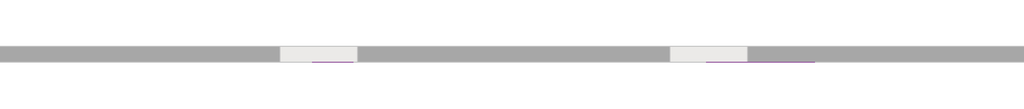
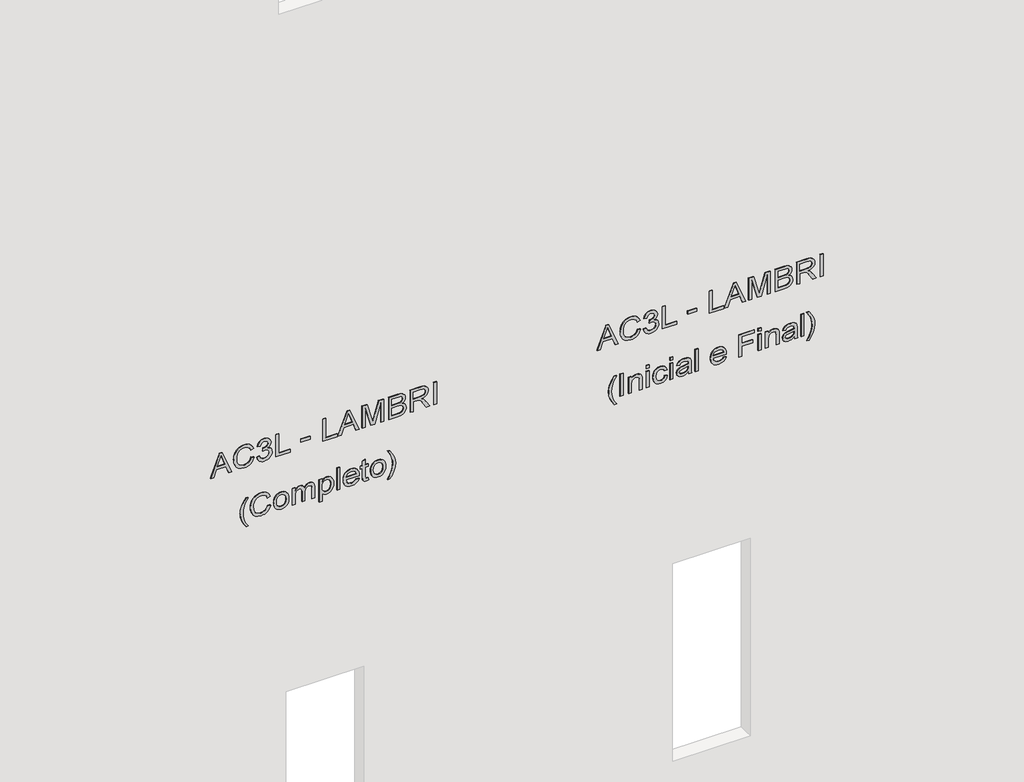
# One storey, part 6 of 11: 2 proxies.
"""IFC4 building model written with IfcOpenShell, lengths in millimetres."""

from ifc_helpers import new_model, si_unit, frame, origin, place, context, project, spatial, polyline, outline, extrude, element, save

model = new_model("IFC4")

# Units and contexts
model_context = context("Model", 3, world=origin())
ifc_project = project(units=[si_unit("LENGTHUNIT", "METRE", prefix="MILLI")], contexts=[model_context])

# Site, building, storey
site = spatial("IfcSite", under=ifc_project)
building = spatial("IfcBuilding", under=site)
storey = spatial("IfcBuildingStorey", under=building, Name="01 - Marelli - Planta Baixa - Painéis Lambri", Elevation=0.0)

# Proxies
placement = place(None, origin())
element("IfcBuildingElementProxy", 1, Name="300mm Arial", ObjectType="300mm Arial", at=placement, inside=storey, context=model_context, shape_type="SweptSolid", body=[
    extrude(outline(polyline([(5965.9244535, 27389.5842548), (5965.9244535, 27429.3890867), (6060.1022443, 27463.8228414), (6060.1022443, 27587.9462266), (5965.9244535, 27622.4535577), (5965.9244535, 27662.2583896), (6267.293384, 27541.9609772), (6267.293384, 27509.8816672), (5965.9244535, 27389.5842548)]), holes=[polyline([(6097.7733606, 27477.6552044), (6178.3395176, 27507.1593405), (6229.6222677, 27525.9213222), (6171.8647944, 27547.0377487), (6097.7733606, 27574.18744), (6097.7733606, 27477.6552044)])]), frame((0.0, 8778.3159498, 0.0), z_axis=(0.0, 1.0, 0.0), x_axis=(0.0, 0.0, 1.0)), (0.0, 0.0, 1.0), 10.0),
    extrude(outline(polyline([(6073.0516905, 27914.4047091), (6040.7884396, 27902.218618), (6017.5750857, 27882.4357637), (6003.5587816, 27856.2333686), (5998.8866803, 27824.7886551), (6002.3171799, 27797.8137078), (6012.6086787, 27772.8069292), (6029.8347531, 27751.94802), (6054.0689796, 27737.4166812), (6084.1617268, 27728.891016), (6118.9633635, 27726.0491276), (6147.3822477, 27728.4495576), (6174.9550032, 27735.6508477), (6199.3455795, 27748.7750378), (6218.2179258, 27768.9441682), (6230.3028494, 27795.5236424), (6234.3311572, 27827.8788639), (6230.6983225, 27855.9482601), (6219.7998184, 27878.793732), (6200.9550632, 27896.6360087), (6173.4834752, 27909.6958196), (6182.4597959, 27947.3669359), (6220.278065, 27930.7294727), (6235.6003501, 27918.9273584), (6248.5314022, 27904.802989), (6258.7999084, 27888.623079), (6266.1345557, 27870.6543428), (6272.0022735, 27829.3503918), (6267.4681279, 27791.4953345), (6253.8656912, 27756.9512152), (6231.526057, 27727.8241582), (6200.7803193, 27706.220288), (6162.8332915, 27692.8385805), (6118.8897871, 27688.3780113), (6077.2271512, 27692.3235457), (6038.3236302, 27704.1601489), (6005.2326447, 27723.54753), (5981.0076153, 27750.1453983), (5966.1635768, 27784.8458675), (5961.215564, 27828.5410514), (5962.8503396, 27850.963459), (5967.7546665, 27871.5832449), (5975.9285445, 27890.4004089), (5987.3719739, 27907.4149512), (6001.9286046, 27922.2911794), (6019.4420868, 27934.6934012), (6039.9124206, 27944.6216165), (6063.3396059, 27952.0758254), (6073.0516905, 27914.4047091)])), frame((0.0, 8778.3159498, 0.0), z_axis=(0.0, 1.0, 0.0), x_axis=(0.0, 0.0, 1.0)), (0.0, 0.0, 1.0), 10.0),
    extrude(outline(polyline([(6045.9755757, 27989.7469417), (6028.0827151, 27992.9980989), (6011.928097, 27999.0727503), (5997.5117213, 28007.9708961), (5984.8335881, 28019.6925361), (5974.5007025, 28033.672052), (5967.12007, 28049.3438249), (5962.6916905, 28066.7078551), (5961.215564, 28085.7641425), (5962.9446094, 28106.8483793), (5968.1317455, 28126.0288268), (5976.7769724, 28143.305485), (5988.88029, 28158.6783539), (6003.4668111, 28171.2967063), (6019.5616484, 28180.3098152), (6037.1648019, 28185.7176806), (6056.2762716, 28187.5203023), (6083.2420218, 28183.9150588), (6105.2781533, 28173.0993281), (6121.5017493, 28155.6249334), (6131.029893, 28132.0436975), (6141.9008059, 28149.9963388), (6155.9722922, 28162.9457851), (6172.4901938, 28170.7816716), (6190.7003526, 28173.3936337), (6210.2440836, 28170.6437158), (6228.7025627, 28162.3939621), (6244.7238236, 28148.9478751), (6256.9558999, 28130.6089577), (6264.709013, 28108.8579347), (6267.293384, 28085.1755313), (6262.0510656, 28052.2868809), (6246.3241103, 28025.2843425), (6221.0690113, 28005.5474734), (6187.2422618, 27994.4558313), (6182.5333723, 28032.1269476), (6203.134764, 28038.8040058), (6217.8500438, 28050.5946237), (6226.6792117, 28066.7446433), (6229.6222677, 28086.4999065), (6226.7068029, 28106.2183814), (6217.9604084, 28121.9637308), (6204.7626419, 28132.2828208), (6188.4930606, 28135.7225174), (6168.9585267, 28130.9768397), (6155.2365283, 28116.7398065), (6147.1247303, 28096.561479), (6144.4207976, 28073.9919186), (6144.862256, 28067.9586539), (6107.1911397, 28063.7647992), (6111.311418, 28090.1787264), (6107.4578541, 28113.8703269), (6095.8971624, 28133.0001907), (6078.4503588, 28145.6369372), (6056.9384591, 28149.849186), (6034.2769282, 28145.600149), (6015.5885229, 28132.8530379), (6003.0621409, 28112.9138337), (5998.8866803, 28087.0885177), (6001.9217068, 28065.0799773), (6011.0267861, 28048.2033908), (6027.0112588, 28035.8517528), (6050.6844652, 28027.418058), (6045.9755757, 27989.7469417)])), frame((0.0, 8778.3159498, 0.0), z_axis=(0.0, 1.0, 0.0), x_axis=(0.0, 0.0, 1.0)), (0.0, 0.0, 1.0), 10.0),
    extrude(outline(polyline([(5965.9244535, 28234.6091977), (5965.9244535, 28422.9647792), (6003.5955698, 28422.9647792), (6003.5955698, 28272.280314), (6267.293384, 28272.280314), (6267.293384, 28234.6091977), (5965.9244535, 28234.6091977)])), frame((0.0, 8778.3159498, 0.0), z_axis=(0.0, 1.0, 0.0), x_axis=(0.0, 0.0, 1.0)), (0.0, 0.0, 1.0), 10.0),
    extrude(outline(polyline([(28677.2448143, 8778.3159498), (28559.5225759, 8778.3159498), (28559.5225759, 8788.3159498), (28677.2448143, 8788.3159498), (28677.2448143, 8778.3159498)])), frame((0.0, 0.0, 6055.3933548), z_axis=(0.0, 0.0, 1.0), x_axis=(1.0, 0.0, 0.0)), (0.0, 0.0, 1.0), 37.6711163),
    extrude(outline(polyline([(5965.9244535, 28842.0559482), (5965.9244535, 29030.4115297), (6003.5955698, 29030.4115297), (6003.5955698, 28879.7270645), (6267.293384, 28879.7270645), (6267.293384, 28842.0559482), (5965.9244535, 28842.0559482)])), frame((0.0, 8778.3159498, 0.0), z_axis=(0.0, 1.0, 0.0), x_axis=(0.0, 0.0, 1.0)), (0.0, 0.0, 1.0), 10.0),
    extrude(outline(polyline([(5965.9244535, 29037.6955932), (5965.9244535, 29077.5004251), (6060.1022443, 29111.9341798), (6060.1022443, 29236.057565), (5965.9244535, 29270.5648961), (5965.9244535, 29310.369728), (6267.293384, 29190.0723156), (6267.293384, 29157.9930056), (5965.9244535, 29037.6955932)]), holes=[polyline([(6097.7733606, 29125.7665428), (6178.3395176, 29155.2706788), (6229.6222677, 29174.0326606), (6171.8647944, 29195.1490871), (6097.7733606, 29222.2987784), (6097.7733606, 29125.7665428)])]), frame((0.0, 8778.3159498, 0.0), z_axis=(0.0, 1.0, 0.0), x_axis=(0.0, 0.0, 1.0)), (0.0, 0.0, 1.0), 10.0),
    extrude(outline(polyline([(5965.9244535, 29350.6160183), (5965.9244535, 29388.2871346), (6229.6222677, 29388.2871346), (5965.9244535, 29463.9972492), (5965.9244535, 29515.0592701), (6229.6222677, 29590.7693847), (5965.9244535, 29590.7693847), (5965.9244535, 29628.440501), (6267.293384, 29628.440501), (6267.293384, 29563.6196935), (6058.5571399, 29502.9927407), (6010.5117514, 29489.5282597), (6054.87832, 29477.0938482), (6267.293384, 29415.4368258), (6267.293384, 29350.6160183), (5965.9244535, 29350.6160183)])), frame((0.0, 8778.3159498, 0.0), z_axis=(0.0, 1.0, 0.0), x_axis=(0.0, 0.0, 1.0)), (0.0, 0.0, 1.0), 10.0),
    extrude(outline(polyline([(5965.9244535, 29694.3649546), (5965.9244535, 29808.4819495), (5971.1115897, 29856.7848555), (5977.5311305, 29874.8202703), (5986.4154807, 29889.5631412), (5998.6843452, 29901.6020795), (6015.2574291, 29911.5256963), (6034.7459778, 29918.1751634), (6055.7612368, 29920.3916524), (6080.9795475, 29917.1450938), (6102.6294029, 29907.405418), (6119.5887629, 29891.6324774), (6130.7355874, 29870.2861247), (6142.4802201, 29888.1559926), (6157.407032, 29900.8571185), (6174.4675596, 29908.4446846), (6192.613339, 29910.9738733), (6212.3318139, 29907.966438), (6231.1673721, 29898.9441321), (6247.1794359, 29884.6151284), (6258.4274279, 29865.6875997), (6265.076895, 29840.9935208), (6267.293384, 29809.3648663), (6267.293384, 29694.3649546), (5965.9244535, 29694.3649546)]), holes=[polyline([(6144.862256, 29732.0360709), (6229.6222677, 29732.0360709), (6229.6222677, 29795.6060797), (6225.6859303, 29844.0193502), (6220.084927, 29856.508944), (6211.1545915, 29865.7243879), (6199.7134615, 29871.4081648), (6186.5800742, 29873.302757), (6173.0512139, 29871.270209), (6162.0423452, 29865.1725649), (6153.6822268, 29855.0650071), (6148.0996175, 29841.0027179), (6144.862256, 29800.830004), (6144.862256, 29732.0360709)]), polyline([(6003.5955698, 29732.0360709), (6107.1911397, 29732.0360709), (6107.1911397, 29805.6124699), (6105.9311438, 29832.4402644), (6102.1511563, 29852.1495423), (6095.262566, 29866.0646788), (6084.6767616, 29875.510049), (6071.1387042, 29880.9179143), (6055.3933548, 29882.7205361), (6041.8369032, 29881.1846288), (6030.0094971, 29876.5769068), (6013.2708663, 29860.9051338), (6005.0670978, 29837.2503215), (6003.5955698, 29809.2912899), (6003.5955698, 29732.0360709)])]), frame((0.0, 8778.3159498, 0.0), z_axis=(0.0, 1.0, 0.0), x_axis=(0.0, 0.0, 1.0)), (0.0, 0.0, 1.0), 10.0),
    extrude(outline(polyline([(5965.9244535, 29972.1894373), (5965.9244535, 30009.8605536), (6097.7733606, 30009.8605536), (6097.7733606, 30055.3307682), (6096.4489854, 30077.1829588), (6089.2752865, 30095.0988119), (6069.7407526, 30115.0012279), (6028.3908163, 30143.3281415), (5965.9244535, 30182.5443622), (5965.9244535, 30226.3223196), (6047.5942565, 30176.0696391), (6086.3690188, 30145.5354335), (6102.4822501, 30124.1247013), (6112.4702463, 30161.2347976), (6120.4854753, 30175.6166844), (6130.5148582, 30187.2164635), (6155.1261637, 30202.5295516), (6184.8142407, 30207.6339143), (6208.6805851, 30204.5529025), (6230.3948199, 30195.3098674), (6247.9060028, 30180.9072873), (6259.1631919, 30162.3476406), (6265.260836, 30136.9545859), (6267.293384, 30102.0517816), (6267.293384, 29972.1894373), (5965.9244535, 29972.1894373)]), holes=[polyline([(6135.4444769, 30009.8605536), (6229.6222677, 30009.8605536), (6229.6222677, 30103.6704624), (6226.366512, 30133.4781011), (6216.599245, 30154.0335076), (6201.7919947, 30165.9804753), (6183.4162891, 30169.9627979), (6170.1081579, 30167.8750676), (6157.8484904, 30161.6118767), (6147.7133415, 30151.3295749), (6140.7787658, 30137.1845122), (6136.7780491, 30118.3949393), (6135.4444769, 30094.1791069), (6135.4444769, 30009.8605536)])]), frame((0.0, 8778.3159498, 0.0), z_axis=(0.0, 1.0, 0.0), x_axis=(0.0, 0.0, 1.0)), (0.0, 0.0, 1.0), 10.0),
    extrude(outline(polyline([(30315.9383736, 8778.3159498), (30278.2672573, 8778.3159498), (30278.2672573, 8788.3159498), (30315.9383736, 8788.3159498), (30315.9383736, 8778.3159498)])), frame((0.0, 0.0, 5965.9244535), z_axis=(0.0, 0.0, 1.0), x_axis=(1.0, 0.0, 0.0)), (0.0, 0.0, 1.0), 301.3689304),
    extrude(outline(polyline([(5149.3155348, 27848.4802556), (5149.3155348, 27876.7335928), (5197.5540614, 27847.8916444), (5245.8109821, 27827.2902527), (5294.0862969, 27814.9294176), (5342.3800058, 27810.8091393), (5380.2534572, 27813.1819781), (5417.9429677, 27820.3004948), (5475.7740173, 27841.4904977), (5535.4444769, 27876.7335928), (5535.4444769, 27848.4802556), (5484.934279, 27813.7889834), (5434.2033518, 27789.4719836), (5389.4137189, 27777.2215131), (5342.600735, 27773.138023), (5289.2210575, 27778.6010706), (5237.68079, 27794.9902135), (5190.2791949, 27819.2888193), (5149.3155348, 27848.4802556)])), frame((0.0, 8778.3159498, 0.0), z_axis=(0.0, 1.0, 0.0), x_axis=(0.0, 0.0, 1.0)), (0.0, 0.0, 1.0), 10.0),
    extrude(outline(polyline([(5341.2027835, 28131.0136279), (5308.9395325, 28118.8275368), (5285.7261786, 28099.0446825), (5271.7098746, 28072.8422874), (5267.0377732, 28041.3975739), (5270.4682728, 28014.4226266), (5280.7597717, 27989.4158479), (5297.9858461, 27968.5569388), (5322.2200725, 27954.0256), (5352.3128197, 27945.4999348), (5387.1144565, 27942.6580463), (5415.5333406, 27945.0584764), (5443.1060961, 27952.2597664), (5467.4966724, 27965.3839566), (5486.3690188, 27985.553087), (5498.4539423, 28012.1325611), (5502.4822501, 28044.4877826), (5498.8494154, 28072.5571788), (5487.9509113, 28095.4026507), (5469.1061561, 28113.2449275), (5441.6345681, 28126.3047383), (5450.6108888, 28163.9758546), (5488.4291579, 28147.3383914), (5503.751443, 28135.5362772), (5516.6824952, 28121.4119078), (5526.9510013, 28105.2319978), (5534.2856486, 28087.2632616), (5540.1533665, 28045.9593106), (5535.6192209, 28008.1042533), (5522.0167841, 27973.5601339), (5499.6771499, 27944.433077), (5468.9314122, 27922.8292068), (5430.9843844, 27909.4474992), (5387.0408801, 27904.98693), (5345.3782441, 27908.9324644), (5306.4747231, 27920.7690676), (5273.3837376, 27940.1564488), (5249.1587083, 27966.754317), (5234.3146698, 28001.4547862), (5229.3666569, 28045.1499702), (5231.0014325, 28067.5723778), (5235.9057594, 28088.1921636), (5244.0796375, 28107.0093277), (5255.5230668, 28124.02387), (5270.0796975, 28138.9000981), (5287.5931797, 28151.3023199), (5308.0635135, 28161.2305353), (5331.4906988, 28168.6847442), (5341.2027835, 28131.0136279)])), frame((0.0, 8778.3159498, 0.0), z_axis=(0.0, 1.0, 0.0), x_axis=(0.0, 0.0, 1.0)), (0.0, 0.0, 1.0), 10.0),
    extrude(outline(polyline([(5344.7344506, 28206.3558605), (5318.4124939, 28208.0642125), (5295.3646869, 28213.1892685), (5275.5910296, 28221.7310286), (5259.0915221, 28233.6894927), (5246.0868936, 28248.4162688), (5236.7978732, 28265.262965), (5231.224461, 28284.2295811), (5229.3666569, 28305.3161172), (5232.7419742, 28331.9047884), (5242.8679261, 28356.3413499), (5259.1007192, 28376.9151505), (5280.7965599, 28391.9155389), (5309.767267, 28401.0758005), (5347.8246594, 28404.1292211), (5372.7049786, 28402.402475), (5394.7388108, 28397.2222366), (5413.9261561, 28388.5885061), (5430.2670145, 28376.5012833), (5443.3199275, 28361.6917337), (5452.6434368, 28344.8910228), (5458.2375424, 28326.0991507), (5460.1022443, 28305.3161172), (5458.5709355, 28286.4897561), (5453.9770091, 28269.1533171), (5446.3204651, 28253.3068001), (5435.6013034, 28238.9502053), (5418.830483, 28224.6901794), (5398.095734, 28214.5044467), (5373.3970566, 28208.393007), (5344.7344506, 28206.3558605)]), holes=[polyline([(5344.808027, 28244.0269768), (5378.8830968, 28248.3863784), (5403.1173232, 28261.4645834), (5417.6026768, 28281.1462701), (5422.431128, 28305.3161172), (5417.5842827, 28329.2376439), (5403.0437468, 28348.9101336), (5379.0854319, 28362.071112), (5345.9852494, 28366.4581048), (5311.1468245, 28362.0987031), (5286.535519, 28349.0204982), (5271.9122097, 28329.3755997), (5267.0377732, 28305.3161172), (5271.8846185, 28281.1462701), (5286.4251544, 28261.4645834), (5310.7145631, 28248.3863784), (5344.808027, 28244.0269768)])]), frame((0.0, 8778.3159498, 0.0), z_axis=(0.0, 1.0, 0.0), x_axis=(0.0, 0.0, 1.0)), (0.0, 0.0, 1.0), 10.0),
    extrude(outline(polyline([(5234.0755465, 28446.5092269), (5234.0755465, 28484.1803432), (5345.6909438, 28484.1803432), (5371.6082304, 28485.615083), (5390.6461236, 28489.9193024), (5404.368122, 28497.4240951), (5414.3377241, 28508.4605549), (5420.407777, 28521.8330655), (5422.431128, 28536.3460102), (5419.3961015, 28553.4249318), (5410.2910222, 28564.9304412), (5395.0974958, 28571.4695437), (5373.7971282, 28573.6492445), (5234.0755465, 28573.6492445), (5234.0755465, 28611.3203608), (5359.008272, 28611.3203608), (5387.7214617, 28615.0083778), (5407.3479662, 28626.0724288), (5418.6603375, 28642.709892), (5422.431128, 28663.1181457), (5420.9596, 28674.6788374), (5416.5450161, 28684.6392424), (5409.7300021, 28692.3831584), (5401.0571841, 28697.2943831), (5369.6032735, 28700.789262), (5234.0755465, 28700.789262), (5234.0755465, 28738.4603783), (5385.7900813, 28738.4603783), (5418.7615051, 28734.1469619), (5441.8920855, 28721.2067127), (5455.5497046, 28700.2650302), (5460.1022443, 28671.9473136), (5457.366122, 28652.4219767), (5449.1577549, 28634.8280203), (5435.4771432, 28619.1654443), (5416.3242869, 28605.4342489), (5434.7643719, 28597.2304804), (5448.5875379, 28584.6857043), (5457.2235677, 28567.8918912), (5460.1022443, 28546.9410116), (5457.27875, 28527.3880836), (5448.808267, 28510.0792357), (5435.702471, 28495.5111087), (5418.9730372, 28484.1803432), (5455.3933548, 28484.1803432), (5455.3933548, 28446.5092269), (5234.0755465, 28446.5092269)])), frame((0.0, 8778.3159498, 0.0), z_axis=(0.0, 1.0, 0.0), x_axis=(0.0, 0.0, 1.0)), (0.0, 0.0, 1.0), 10.0),
    extrude(outline(polyline([(5149.3155348, 28794.9670528), (5149.3155348, 28832.6381691), (5263.5061061, 28832.6381691), (5249.9956398, 28843.2791558), (5239.0419534, 28856.5137106), (5231.785481, 28871.9739514), (5229.3666569, 28889.2919963), (5232.9810975, 28913.7101638), (5243.8244193, 28936.9327147), (5261.4459669, 28956.8719188), (5285.3950848, 28971.4400459), (5314.2094421, 28980.3519872), (5346.4267078, 28983.3226343), (5376.7217901, 28980.692278), (5404.4784866, 28972.8012092), (5427.9861461, 28959.7413984), (5445.5341173, 28941.604816), (5456.4602125, 28919.3295612), (5460.1022443, 28893.8537331), (5457.4994792, 28874.7238693), (5449.6911838, 28858.6842143), (5436.6773583, 28844.9254277), (5418.4580024, 28832.6381691), (5455.3933548, 28832.6381691), (5455.3933548, 28794.9670528), (5149.3155348, 28794.9670528)]), holes=[polyline([(5342.968617, 28832.6381691), (5377.1356573, 28836.9883737), (5402.0872537, 28850.0389874), (5417.3451594, 28868.7365899), (5422.431128, 28890.0277603), (5417.6486621, 28911.2361573), (5403.3012642, 28929.243981), (5379.3521464, 28941.5496337), (5345.7645202, 28945.651518), (5310.7237602, 28941.4484662), (5286.2412134, 28928.8393108), (5271.8386333, 28910.3440435), (5267.0377732, 28888.4826559), (5271.6730864, 28866.9707563), (5285.5790258, 28848.9353415), (5309.1970499, 28836.7124622), (5342.968617, 28832.6381691)])]), frame((0.0, 8778.3159498, 0.0), z_axis=(0.0, 1.0, 0.0), x_axis=(0.0, 0.0, 1.0)), (0.0, 0.0, 1.0), 10.0),
    extrude(outline(polyline([(29063.3737565, 8778.3159498), (29025.7026401, 8778.3159498), (29025.7026401, 8788.3159498), (29063.3737565, 8788.3159498), (29063.3737565, 8778.3159498)])), frame((0.0, 0.0, 5234.0755465), z_axis=(0.0, 0.0, 1.0), x_axis=(1.0, 0.0, 0.0)), (0.0, 0.0, 1.0), 301.3689304),
    extrude(outline(polyline([(5300.0, 29274.8323273), (5285.1191733, 29264.274114), (5274.9104479, 29250.5521156), (5269.0059419, 29233.666332), (5267.0377732, 29213.6167633), (5271.2868103, 29186.9545157), (5284.0339214, 29165.0931281), (5304.7640718, 29149.945587), (5332.9622268, 29143.4248786), (5332.9622268, 29312.7241728), (5343.1157698, 29312.944902), (5369.3687487, 29311.158375), (5392.5039277, 29305.7987942), (5412.5213067, 29296.8661595), (5429.4208859, 29284.360471), (5442.8439802, 29269.0404851), (5452.4319047, 29251.6649586), (5458.1846594, 29232.2338915), (5460.1022443, 29210.7472837), (5458.1800609, 29188.5456053), (5452.4135106, 29168.5144307), (5442.8025935, 29150.6537598), (5429.3473095, 29134.9635927), (5412.4109422, 29122.1842919), (5392.3567749, 29113.0562199), (5369.1848077, 29107.5793767), (5342.8950406, 29105.7537623), (5317.467497, 29107.5609826), (5295.0427901, 29112.9826435), (5275.62092, 29122.018745), (5259.2018867, 29134.6692871), (5246.1489737, 29150.4008409), (5236.8254644, 29168.6799776), (5231.2313588, 29189.506697), (5229.3666569, 29212.8809993), (5233.6892704, 29248.5379617), (5246.6571107, 29277.2235602), (5267.4608375, 29298.4595484), (5295.2911105, 29311.7676796), (5300.0, 29274.8323273)]), holes=[polyline([(5370.6333431, 29143.4248786), (5391.8693312, 29149.6144932), (5408.3412476, 29164.2102113), (5418.9086579, 29185.2070762), (5422.431128, 29210.6001309), (5418.0165441, 29238.2280688), (5404.7727922, 29260.1906239), (5390.535759, 29270.17862), (5370.6333431, 29275.2737857), (5370.6333431, 29143.4248786)])]), frame((0.0, 8778.3159498, 0.0), z_axis=(0.0, 1.0, 0.0), x_axis=(0.0, 0.0, 1.0)), (0.0, 0.0, 1.0), 10.0),
    extrude(outline(polyline([(5265.4926689, 29430.6671404), (5267.0377732, 29414.2596035), (5269.576159, 29401.4205218), (5276.4555523, 29394.9825869), (5295.8797217, 29392.9960241), (5417.7222385, 29392.9960241), (5417.7222385, 29430.6671404), (5455.3933548, 29430.6671404), (5455.3933548, 29392.9960241), (5531.3241986, 29392.9960241), (5509.1777025, 29355.3249078), (5455.3933548, 29355.3249078), (5455.3933548, 29327.0715706), (5417.7222385, 29327.0715706), (5417.7222385, 29355.3249078), (5294.7760757, 29355.3249078), (5267.7919313, 29356.465342), (5252.0281878, 29359.8866446), (5242.849532, 29366.1038503), (5235.6206508, 29375.631994), (5230.9301554, 29389.1148691), (5229.3666569, 29407.1962691), (5232.9719005, 29435.37603), (5265.4926689, 29430.6671404)])), frame((0.0, 8778.3159498, 0.0), z_axis=(0.0, 1.0, 0.0), x_axis=(0.0, 0.0, 1.0)), (0.0, 0.0, 1.0), 10.0),
    extrude(outline(polyline([(5344.7344506, 29458.9204777), (5318.4124939, 29460.6288297), (5295.3646869, 29465.7538857), (5275.5910296, 29474.2956458), (5259.0915221, 29486.2541099), (5246.0868936, 29500.980886), (5236.7978732, 29517.8275821), (5231.224461, 29536.7941983), (5229.3666569, 29557.8807344), (5232.7419742, 29584.4694056), (5242.8679261, 29608.9059671), (5259.1007192, 29629.4797677), (5280.7965599, 29644.480156), (5309.767267, 29653.6404177), (5347.8246594, 29656.6938383), (5372.7049786, 29654.9670922), (5394.7388108, 29649.7868538), (5413.9261561, 29641.1531232), (5430.2670145, 29629.0659004), (5443.3199275, 29614.2563509), (5452.6434368, 29597.45564), (5458.2375424, 29578.6637678), (5460.1022443, 29557.8807344), (5458.5709355, 29539.0543733), (5453.9770091, 29521.7179342), (5446.3204651, 29505.8714173), (5435.6013034, 29491.5148224), (5418.830483, 29477.2547966), (5398.095734, 29467.0690639), (5373.3970566, 29460.9576242), (5344.7344506, 29458.9204777)]), holes=[polyline([(5344.808027, 29496.591594), (5378.8830968, 29500.9509956), (5403.1173232, 29514.0292005), (5417.6026768, 29533.7108873), (5422.431128, 29557.8807344), (5417.5842827, 29581.8022611), (5403.0437468, 29601.4747508), (5379.0854319, 29614.6357292), (5345.9852494, 29619.022722), (5311.1468245, 29614.6633203), (5286.535519, 29601.5851154), (5271.9122097, 29581.9402169), (5267.0377732, 29557.8807344), (5271.8846185, 29533.7108873), (5286.4251544, 29514.0292005), (5310.7145631, 29500.9509956), (5344.808027, 29496.591594)])]), frame((0.0, 8778.3159498, 0.0), z_axis=(0.0, 1.0, 0.0), x_axis=(0.0, 0.0, 1.0)), (0.0, 0.0, 1.0), 10.0),
    extrude(outline(polyline([(5149.3155348, 29708.4916232), (5190.2791949, 29737.5451038), (5237.68079, 29761.8713007), (5289.2210575, 29778.343217), (5342.600735, 29783.8338558), (5389.4137189, 29779.7503657), (5434.2033518, 29767.4998952), (5484.934279, 29743.1828953), (5535.4444769, 29708.4916232), (5535.4444769, 29680.238286), (5475.1854061, 29715.7021103), (5446.8400984, 29727.6766692), (5417.2807801, 29736.671384), (5379.9775458, 29743.7899006), (5342.3800058, 29746.1627395), (5294.0862969, 29742.0424612), (5245.8109821, 29729.6816261), (5197.5540614, 29709.0802344), (5149.3155348, 29680.238286), (5149.3155348, 29708.4916232)])), frame((0.0, 8778.3159498, 0.0), z_axis=(0.0, 1.0, 0.0), x_axis=(0.0, 0.0, 1.0)), (0.0, 0.0, 1.0), 10.0),
])
element("IfcBuildingElementProxy", 2, Name="300mm Arial", ObjectType="300mm Arial", at=placement, inside=storey, context=model_context, shape_type="SweptSolid", body=[
    extrude(outline(polyline([(5965.9244535, 32389.5842548), (5965.9244535, 32429.3890867), (6060.1022443, 32463.8228414), (6060.1022443, 32587.9462266), (5965.9244535, 32622.4535577), (5965.9244535, 32662.2583896), (6267.293384, 32541.9609772), (6267.293384, 32509.8816672), (5965.9244535, 32389.5842548)]), holes=[polyline([(6097.7733606, 32477.6552044), (6178.3395176, 32507.1593405), (6229.6222677, 32525.9213222), (6171.8647944, 32547.0377487), (6097.7733606, 32574.18744), (6097.7733606, 32477.6552044)])]), frame((0.0, 8778.3159498, 0.0), z_axis=(0.0, 1.0, 0.0), x_axis=(0.0, 0.0, 1.0)), (0.0, 0.0, 1.0), 10.0),
    extrude(outline(polyline([(6073.0516905, 32914.4047091), (6040.7884396, 32902.218618), (6017.5750857, 32882.4357637), (6003.5587816, 32856.2333686), (5998.8866803, 32824.7886551), (6002.3171799, 32797.8137078), (6012.6086787, 32772.8069292), (6029.8347531, 32751.94802), (6054.0689796, 32737.4166812), (6084.1617268, 32728.891016), (6118.9633635, 32726.0491276), (6147.3822477, 32728.4495576), (6174.9550032, 32735.6508477), (6199.3455795, 32748.7750378), (6218.2179258, 32768.9441682), (6230.3028494, 32795.5236424), (6234.3311572, 32827.8788639), (6230.6983225, 32855.9482601), (6219.7998184, 32878.793732), (6200.9550632, 32896.6360087), (6173.4834752, 32909.6958196), (6182.4597959, 32947.3669359), (6220.278065, 32930.7294727), (6235.6003501, 32918.9273584), (6248.5314022, 32904.802989), (6258.7999084, 32888.623079), (6266.1345557, 32870.6543428), (6272.0022735, 32829.3503918), (6267.4681279, 32791.4953345), (6253.8656912, 32756.9512152), (6231.526057, 32727.8241582), (6200.7803193, 32706.220288), (6162.8332915, 32692.8385805), (6118.8897871, 32688.3780113), (6077.2271512, 32692.3235457), (6038.3236302, 32704.1601489), (6005.2326447, 32723.54753), (5981.0076153, 32750.1453983), (5966.1635768, 32784.8458675), (5961.215564, 32828.5410514), (5962.8503396, 32850.963459), (5967.7546665, 32871.5832449), (5975.9285445, 32890.4004089), (5987.3719739, 32907.4149512), (6001.9286046, 32922.2911794), (6019.4420868, 32934.6934012), (6039.9124206, 32944.6216165), (6063.3396059, 32952.0758254), (6073.0516905, 32914.4047091)])), frame((0.0, 8778.3159498, 0.0), z_axis=(0.0, 1.0, 0.0), x_axis=(0.0, 0.0, 1.0)), (0.0, 0.0, 1.0), 10.0),
    extrude(outline(polyline([(6045.9755757, 32989.7469417), (6028.0827151, 32992.9980989), (6011.928097, 32999.0727503), (5997.5117213, 33007.9708961), (5984.8335881, 33019.6925361), (5974.5007025, 33033.672052), (5967.12007, 33049.3438249), (5962.6916905, 33066.7078551), (5961.215564, 33085.7641425), (5962.9446094, 33106.8483793), (5968.1317455, 33126.0288268), (5976.7769724, 33143.305485), (5988.88029, 33158.6783539), (6003.4668111, 33171.2967063), (6019.5616484, 33180.3098152), (6037.1648019, 33185.7176806), (6056.2762716, 33187.5203023), (6083.2420218, 33183.9150588), (6105.2781533, 33173.0993281), (6121.5017493, 33155.6249334), (6131.029893, 33132.0436975), (6141.9008059, 33149.9963388), (6155.9722922, 33162.9457851), (6172.4901938, 33170.7816716), (6190.7003526, 33173.3936337), (6210.2440836, 33170.6437158), (6228.7025627, 33162.3939621), (6244.7238236, 33148.9478751), (6256.9558999, 33130.6089577), (6264.709013, 33108.8579347), (6267.293384, 33085.1755313), (6262.0510656, 33052.2868809), (6246.3241103, 33025.2843425), (6221.0690113, 33005.5474734), (6187.2422618, 32994.4558313), (6182.5333723, 33032.1269476), (6203.134764, 33038.8040058), (6217.8500438, 33050.5946237), (6226.6792117, 33066.7446433), (6229.6222677, 33086.4999065), (6226.7068029, 33106.2183814), (6217.9604084, 33121.9637308), (6204.7626419, 33132.2828208), (6188.4930606, 33135.7225174), (6168.9585267, 33130.9768397), (6155.2365283, 33116.7398065), (6147.1247303, 33096.561479), (6144.4207976, 33073.9919186), (6144.862256, 33067.9586539), (6107.1911397, 33063.7647992), (6111.311418, 33090.1787264), (6107.4578541, 33113.8703269), (6095.8971624, 33133.0001907), (6078.4503588, 33145.6369372), (6056.9384591, 33149.849186), (6034.2769282, 33145.600149), (6015.5885229, 33132.8530379), (6003.0621409, 33112.9138337), (5998.8866803, 33087.0885177), (6001.9217068, 33065.0799773), (6011.0267861, 33048.2033908), (6027.0112588, 33035.8517528), (6050.6844652, 33027.418058), (6045.9755757, 32989.7469417)])), frame((0.0, 8778.3159498, 0.0), z_axis=(0.0, 1.0, 0.0), x_axis=(0.0, 0.0, 1.0)), (0.0, 0.0, 1.0), 10.0),
    extrude(outline(polyline([(5965.9244535, 33234.6091977), (5965.9244535, 33422.9647792), (6003.5955698, 33422.9647792), (6003.5955698, 33272.280314), (6267.293384, 33272.280314), (6267.293384, 33234.6091977), (5965.9244535, 33234.6091977)])), frame((0.0, 8778.3159498, 0.0), z_axis=(0.0, 1.0, 0.0), x_axis=(0.0, 0.0, 1.0)), (0.0, 0.0, 1.0), 10.0),
    extrude(outline(polyline([(33677.2448143, 8778.3159498), (33559.5225759, 8778.3159498), (33559.5225759, 8788.3159498), (33677.2448143, 8788.3159498), (33677.2448143, 8778.3159498)])), frame((0.0, 0.0, 6055.3933548), z_axis=(0.0, 0.0, 1.0), x_axis=(1.0, 0.0, 0.0)), (0.0, 0.0, 1.0), 37.6711163),
    extrude(outline(polyline([(5965.9244535, 33842.0559482), (5965.9244535, 34030.4115297), (6003.5955698, 34030.4115297), (6003.5955698, 33879.7270645), (6267.293384, 33879.7270645), (6267.293384, 33842.0559482), (5965.9244535, 33842.0559482)])), frame((0.0, 8778.3159498, 0.0), z_axis=(0.0, 1.0, 0.0), x_axis=(0.0, 0.0, 1.0)), (0.0, 0.0, 1.0), 10.0),
    extrude(outline(polyline([(5965.9244535, 34037.6955932), (5965.9244535, 34077.5004251), (6060.1022443, 34111.9341798), (6060.1022443, 34236.057565), (5965.9244535, 34270.5648961), (5965.9244535, 34310.369728), (6267.293384, 34190.0723156), (6267.293384, 34157.9930056), (5965.9244535, 34037.6955932)]), holes=[polyline([(6097.7733606, 34125.7665428), (6178.3395176, 34155.2706788), (6229.6222677, 34174.0326606), (6171.8647944, 34195.1490871), (6097.7733606, 34222.2987784), (6097.7733606, 34125.7665428)])]), frame((0.0, 8778.3159498, 0.0), z_axis=(0.0, 1.0, 0.0), x_axis=(0.0, 0.0, 1.0)), (0.0, 0.0, 1.0), 10.0),
    extrude(outline(polyline([(5965.9244535, 34350.6160183), (5965.9244535, 34388.2871346), (6229.6222677, 34388.2871346), (5965.9244535, 34463.9972492), (5965.9244535, 34515.0592701), (6229.6222677, 34590.7693847), (5965.9244535, 34590.7693847), (5965.9244535, 34628.440501), (6267.293384, 34628.440501), (6267.293384, 34563.6196935), (6058.5571399, 34502.9927407), (6010.5117514, 34489.5282597), (6054.87832, 34477.0938482), (6267.293384, 34415.4368258), (6267.293384, 34350.6160183), (5965.9244535, 34350.6160183)])), frame((0.0, 8778.3159498, 0.0), z_axis=(0.0, 1.0, 0.0), x_axis=(0.0, 0.0, 1.0)), (0.0, 0.0, 1.0), 10.0),
    extrude(outline(polyline([(5965.9244535, 34694.3649546), (5965.9244535, 34808.4819495), (5971.1115897, 34856.7848555), (5977.5311305, 34874.8202703), (5986.4154807, 34889.5631412), (5998.6843452, 34901.6020795), (6015.2574291, 34911.5256963), (6034.7459778, 34918.1751634), (6055.7612368, 34920.3916524), (6080.9795475, 34917.1450938), (6102.6294029, 34907.405418), (6119.5887629, 34891.6324774), (6130.7355874, 34870.2861247), (6142.4802201, 34888.1559926), (6157.407032, 34900.8571185), (6174.4675596, 34908.4446846), (6192.613339, 34910.9738733), (6212.3318139, 34907.966438), (6231.1673721, 34898.9441321), (6247.1794359, 34884.6151284), (6258.4274279, 34865.6875997), (6265.076895, 34840.9935208), (6267.293384, 34809.3648663), (6267.293384, 34694.3649546), (5965.9244535, 34694.3649546)]), holes=[polyline([(6144.862256, 34732.0360709), (6229.6222677, 34732.0360709), (6229.6222677, 34795.6060797), (6225.6859303, 34844.0193502), (6220.084927, 34856.508944), (6211.1545915, 34865.7243879), (6199.7134615, 34871.4081648), (6186.5800742, 34873.302757), (6173.0512139, 34871.270209), (6162.0423452, 34865.1725649), (6153.6822268, 34855.0650071), (6148.0996175, 34841.0027179), (6144.862256, 34800.830004), (6144.862256, 34732.0360709)]), polyline([(6003.5955698, 34732.0360709), (6107.1911397, 34732.0360709), (6107.1911397, 34805.6124699), (6105.9311438, 34832.4402644), (6102.1511563, 34852.1495423), (6095.262566, 34866.0646788), (6084.6767616, 34875.510049), (6071.1387042, 34880.9179143), (6055.3933548, 34882.7205361), (6041.8369032, 34881.1846288), (6030.0094971, 34876.5769068), (6013.2708663, 34860.9051338), (6005.0670978, 34837.2503215), (6003.5955698, 34809.2912899), (6003.5955698, 34732.0360709)])]), frame((0.0, 8778.3159498, 0.0), z_axis=(0.0, 1.0, 0.0), x_axis=(0.0, 0.0, 1.0)), (0.0, 0.0, 1.0), 10.0),
    extrude(outline(polyline([(5965.9244535, 34972.1894373), (5965.9244535, 35009.8605536), (6097.7733606, 35009.8605536), (6097.7733606, 35055.3307682), (6096.4489854, 35077.1829588), (6089.2752865, 35095.0988119), (6069.7407526, 35115.0012279), (6028.3908163, 35143.3281415), (5965.9244535, 35182.5443622), (5965.9244535, 35226.3223196), (6047.5942565, 35176.0696391), (6086.3690188, 35145.5354335), (6102.4822501, 35124.1247013), (6112.4702463, 35161.2347976), (6120.4854753, 35175.6166844), (6130.5148582, 35187.2164635), (6155.1261637, 35202.5295516), (6184.8142407, 35207.6339143), (6208.6805851, 35204.5529025), (6230.3948199, 35195.3098674), (6247.9060028, 35180.9072873), (6259.1631919, 35162.3476406), (6265.260836, 35136.9545859), (6267.293384, 35102.0517816), (6267.293384, 34972.1894373), (5965.9244535, 34972.1894373)]), holes=[polyline([(6135.4444769, 35009.8605536), (6229.6222677, 35009.8605536), (6229.6222677, 35103.6704624), (6226.366512, 35133.4781011), (6216.599245, 35154.0335076), (6201.7919947, 35165.9804753), (6183.4162891, 35169.9627979), (6170.1081579, 35167.8750676), (6157.8484904, 35161.6118767), (6147.7133415, 35151.3295749), (6140.7787658, 35137.1845122), (6136.7780491, 35118.3949393), (6135.4444769, 35094.1791069), (6135.4444769, 35009.8605536)])]), frame((0.0, 8778.3159498, 0.0), z_axis=(0.0, 1.0, 0.0), x_axis=(0.0, 0.0, 1.0)), (0.0, 0.0, 1.0), 10.0),
    extrude(outline(polyline([(35315.9383736, 8778.3159498), (35278.2672573, 8778.3159498), (35278.2672573, 8788.3159498), (35315.9383736, 8788.3159498), (35315.9383736, 8778.3159498)])), frame((0.0, 0.0, 5965.9244535), z_axis=(0.0, 0.0, 1.0), x_axis=(1.0, 0.0, 0.0)), (0.0, 0.0, 1.0), 301.3689304),
    extrude(outline(polyline([(5149.3155348, 32613.0357787), (5149.3155348, 32641.2891159), (5197.5540614, 32612.4471675), (5245.8109821, 32591.8457757), (5294.0862969, 32579.4849407), (5342.3800058, 32575.3646624), (5380.2534572, 32577.7375012), (5417.9429677, 32584.8560178), (5475.7740173, 32606.0460208), (5535.4444769, 32641.2891159), (5535.4444769, 32613.0357787), (5484.934279, 32578.3445065), (5434.2033518, 32554.0275066), (5389.4137189, 32541.7770362), (5342.600735, 32537.6935461), (5289.2210575, 32543.1565937), (5237.68079, 32559.5457366), (5190.2791949, 32583.8443424), (5149.3155348, 32613.0357787)])), frame((0.0, 8778.3159498, 0.0), z_axis=(0.0, 1.0, 0.0), x_axis=(0.0, 0.0, 1.0)), (0.0, 0.0, 1.0), 10.0),
    extrude(outline(polyline([(32726.0491276, 8778.3159498), (32688.3780113, 8778.3159498), (32688.3780113, 8788.3159498), (32726.0491276, 8788.3159498), (32726.0491276, 8778.3159498)])), frame((0.0, 0.0, 5234.0755465), z_axis=(0.0, 0.0, 1.0), x_axis=(1.0, 0.0, 0.0)), (0.0, 0.0, 1.0), 301.3689304),
    extrude(outline(polyline([(5234.0755465, 32796.6824707), (5234.0755465, 32834.353587), (5351.5034793, 32834.353587), (5386.2131456, 32838.6486093), (5398.5877762, 32844.0173871), (5407.6422718, 32851.5336761), (5418.7339139, 32870.3416431), (5422.431128, 32892.4053658), (5420.7848561, 32906.3021082), (5415.8460403, 32918.2674701), (5408.1481095, 32927.6024757), (5398.2244927, 32933.6081493), (5364.8943839, 32937.9491568), (5234.0755465, 32937.9491568), (5234.0755465, 32975.6202731), (5369.9711555, 32975.6202731), (5406.391473, 32973.6337103), (5434.0929872, 32962.3397331), (5444.6328064, 32952.2413723), (5452.9285454, 32938.0595214), (5458.3088196, 32921.0541762), (5460.1022443, 32902.4853325), (5457.8765582, 32881.5068617), (5451.1995, 32863.1587472), (5440.0710697, 32847.4409889), (5424.4912672, 32834.353587), (5455.3933548, 32834.353587), (5455.3933548, 32796.6824707), (5234.0755465, 32796.6824707)])), frame((0.0, 8778.3159498, 0.0), z_axis=(0.0, 1.0, 0.0), x_axis=(0.0, 0.0, 1.0)), (0.0, 0.0, 1.0), 10.0),
    extrude(outline(polyline([(33065.0891743, 8778.3159498), (33027.418058, 8778.3159498), (33027.418058, 8788.3159498), (33065.0891743, 8788.3159498), (33065.0891743, 8778.3159498)])), frame((0.0, 0.0, 5497.7733606), z_axis=(0.0, 0.0, 1.0), x_axis=(1.0, 0.0, 0.0)), (0.0, 0.0, 1.0), 37.6711163),
    extrude(outline(polyline([(33065.0891743, 8778.3159498), (33027.418058, 8778.3159498), (33027.418058, 8788.3159498), (33065.0891743, 8788.3159498), (33065.0891743, 8778.3159498)])), frame((0.0, 0.0, 5234.0755465), z_axis=(0.0, 0.0, 1.0), x_axis=(1.0, 0.0, 0.0)), (0.0, 0.0, 1.0), 221.3178083),
    extrude(outline(polyline([(5314.1266686, 33262.8625349), (5293.2493654, 33256.4337971), (5278.5892679, 33244.799529), (5269.9256469, 33228.8058592), (5267.0377732, 33209.2989165), (5271.6638893, 33185.2670251), (5285.5422376, 33166.2935112), (5309.6477053, 33153.9602673), (5344.9551798, 33149.849186), (5379.7936048, 33154.0522378), (5403.816299, 33166.6613932), (5417.7774208, 33185.984395), (5422.431128, 33210.328986), (5420.0674862, 33226.8192965), (5412.9765607, 33240.6792506), (5401.1951398, 33251.3202373), (5384.7600117, 33258.1536454), (5389.4689012, 33295.8247617), (5419.4512838, 33285.5700511), (5441.7081445, 33267.3139071), (5455.5037194, 33241.8656701), (5460.1022443, 33210.0346804), (5456.7545181, 33183.3908269), (5446.7113397, 33158.7887185), (5429.9635118, 33138.224115), (5406.5018376, 33123.6927762), (5377.448357, 33115.0567463), (5343.9251102, 33112.1780697), (5317.8675687, 33113.8634291), (5295.024396, 33118.9195073), (5275.3955923, 33127.3463042), (5258.9811575, 33139.14382), (5246.0248135, 33153.7188448), (5236.7702821, 33170.4781689), (5231.2175632, 33189.4217924), (5229.3666569, 33210.5497152), (5234.6733547, 33243.1808482), (5250.593448, 33270.2937513), (5275.9129264, 33290.0306203), (5309.4177791, 33300.5336513), (5314.1266686, 33262.8625349)])), frame((0.0, 8778.3159498, 0.0), z_axis=(0.0, 1.0, 0.0), x_axis=(0.0, 0.0, 1.0)), (0.0, 0.0, 1.0), 10.0),
    extrude(outline(polyline([(33371.1669943, 8778.3159498), (33333.495878, 8778.3159498), (33333.495878, 8788.3159498), (33371.1669943, 8788.3159498), (33371.1669943, 8778.3159498)])), frame((0.0, 0.0, 5497.7733606), z_axis=(0.0, 0.0, 1.0), x_axis=(1.0, 0.0, 0.0)), (0.0, 0.0, 1.0), 37.6711163),
    extrude(outline(polyline([(33371.1669943, 8778.3159498), (33333.495878, 8778.3159498), (33333.495878, 8788.3159498), (33371.1669943, 8788.3159498), (33371.1669943, 8778.3159498)])), frame((0.0, 0.0, 5234.0755465), z_axis=(0.0, 0.0, 1.0), x_axis=(1.0, 0.0, 0.0)), (0.0, 0.0, 1.0), 221.3178083),
    extrude(outline(polyline([(5262.3288837, 33568.9403549), (5234.0755465, 33578.358134), (5234.0755465, 33616.0292503), (5265.7501862, 33608.5244576), (5331.1963932, 33606.6114712), (5378.0645594, 33606.6114712), (5411.0267861, 33604.7720613), (5425.1442577, 33600.2287186), (5436.5945848, 33593.2205666), (5445.856014, 33582.6531563), (5453.406792, 33567.4320388), (5458.4283812, 33547.2445143), (5460.1022443, 33521.7778832), (5458.207652, 33495.2260002), (5452.5238752, 33472.0770256), (5443.3452194, 33453.149497), (5430.9659903, 33439.2619516), (5414.7791825, 33429.5038817), (5394.1777908, 33422.9647792), (5389.4689012, 33460.6358956), (5405.1314772, 33468.1222942), (5415.1838527, 33478.8092661), (5420.6193092, 33494.4810391), (5422.431128, 33516.9218408), (5419.7088012, 33541.1652643), (5411.5418209, 33558.5660827), (5400.5421493, 33566.3467869), (5383.7299421, 33568.9403549), (5375.3422326, 33568.7196257), (5368.3524747, 33541.9010283), (5362.3927864, 33503.3837834), (5356.7274037, 33470.7894386), (5344.3665686, 33444.4122996), (5334.8752131, 33433.8081011), (5322.7351073, 33425.4663768), (5308.5532564, 33420.0585115), (5292.9366657, 33418.2558897), (5267.6079903, 33423.0291586), (5247.2457219, 33437.3489653), (5233.8364232, 33460.5715162), (5229.3666569, 33492.0530179), (5231.224461, 33512.9211241), (5236.7978732, 33532.4096728), (5246.896234, 33550.9417283), (5262.3288837, 33568.9403549)]), holes=[polyline([(5337.6711163, 33568.9403549), (5327.0025384, 33568.7196257), (5310.0799667, 33567.2297037), (5297.8662844, 33562.7599374), (5286.0112871, 33552.6799707), (5276.0508821, 33538.1854201), (5269.2910505, 33520.3063552), (5267.0377732, 33500.0728454), (5269.0795183, 33480.9889669), (5275.2047535, 33467.1474069), (5284.3834093, 33458.7321062), (5295.5854161, 33455.927006), (5310.0799667, 33461.0773539), (5320.0127805, 33475.7558456), (5326.1196217, 33508.1662493), (5337.6711163, 33568.9403549)])]), frame((0.0, 8778.3159498, 0.0), z_axis=(0.0, 1.0, 0.0), x_axis=(0.0, 0.0, 1.0)), (0.0, 0.0, 1.0), 10.0),
    extrude(outline(polyline([(33696.0803725, 8778.3159498), (33658.4092562, 8778.3159498), (33658.4092562, 8788.3159498), (33696.0803725, 8788.3159498), (33696.0803725, 8778.3159498)])), frame((0.0, 0.0, 5234.0755465), z_axis=(0.0, 0.0, 1.0), x_axis=(1.0, 0.0, 0.0)), (0.0, 0.0, 1.0), 301.3689304),
    extrude(outline(polyline([(5300.0, 34025.2611818), (5285.1191733, 34014.7029685), (5274.9104479, 34000.9809701), (5269.0059419, 33984.0951865), (5267.0377732, 33964.0456178), (5271.2868103, 33937.3833702), (5284.0339214, 33915.5219826), (5304.7640718, 33900.3744414), (5332.9622268, 33893.8537331), (5332.9622268, 34063.1530273), (5343.1157698, 34063.3737565), (5369.3687487, 34061.5872295), (5392.5039277, 34056.2276487), (5412.5213067, 34047.295014), (5429.4208859, 34034.7893254), (5442.8439802, 34019.4693396), (5452.4319047, 34002.0938131), (5458.1846594, 33982.662746), (5460.1022443, 33961.1761382), (5458.1800609, 33938.9744598), (5452.4135106, 33918.9432851), (5442.8025935, 33901.0826143), (5429.3473095, 33885.3924472), (5412.4109422, 33872.6131464), (5392.3567749, 33863.4850744), (5369.1848077, 33858.0082312), (5342.8950406, 33856.1826168), (5317.467497, 33857.9898371), (5295.0427901, 33863.411498), (5275.62092, 33872.4475995), (5259.2018867, 33885.0981416), (5246.1489737, 33900.8296954), (5236.8254644, 33919.108832), (5231.2313588, 33939.9355515), (5229.3666569, 33963.3098538), (5233.6892704, 33998.9668161), (5246.6571107, 34027.6524147), (5267.4608375, 34048.8884029), (5295.2911105, 34062.1965341), (5300.0, 34025.2611818)]), holes=[polyline([(5370.6333431, 33893.8537331), (5391.8693312, 33900.0433476), (5408.3412476, 33914.6390658), (5418.9086579, 33935.6359307), (5422.431128, 33961.0289854), (5418.0165441, 33988.6569232), (5404.7727922, 34010.6194783), (5390.535759, 34020.6074745), (5370.6333431, 34025.7026401), (5370.6333431, 33893.8537331)])]), frame((0.0, 8778.3159498, 0.0), z_axis=(0.0, 1.0, 0.0), x_axis=(0.0, 0.0, 1.0)), (0.0, 0.0, 1.0), 10.0),
    extrude(outline(polyline([(5234.0755465, 34223.4760008), (5234.0755465, 34261.1471171), (5370.6333431, 34261.1471171), (5370.6333431, 34402.4138032), (5408.3044594, 34402.4138032), (5408.3044594, 34261.1471171), (5497.7733606, 34261.1471171), (5497.7733606, 34425.9582509), (5535.4444769, 34425.9582509), (5535.4444769, 34223.4760008), (5234.0755465, 34223.4760008)])), frame((0.0, 8778.3159498, 0.0), z_axis=(0.0, 1.0, 0.0), x_axis=(0.0, 0.0, 1.0)), (0.0, 0.0, 1.0), 10.0),
    extrude(outline(polyline([(34510.7182626, 8778.3159498), (34473.0471463, 8778.3159498), (34473.0471463, 8788.3159498), (34510.7182626, 8788.3159498), (34510.7182626, 8778.3159498)])), frame((0.0, 0.0, 5497.7733606), z_axis=(0.0, 0.0, 1.0), x_axis=(1.0, 0.0, 0.0)), (0.0, 0.0, 1.0), 37.6711163),
    extrude(outline(polyline([(34510.7182626, 8778.3159498), (34473.0471463, 8778.3159498), (34473.0471463, 8788.3159498), (34510.7182626, 8788.3159498), (34510.7182626, 8778.3159498)])), frame((0.0, 0.0, 5234.0755465), z_axis=(0.0, 0.0, 1.0), x_axis=(1.0, 0.0, 0.0)), (0.0, 0.0, 1.0), 221.3178083),
    extrude(outline(polyline([(5234.0755465, 34567.224937), (5234.0755465, 34604.8960534), (5351.5034793, 34604.8960534), (5386.2131456, 34609.1910756), (5398.5877762, 34614.5598535), (5407.6422718, 34622.0761425), (5418.7339139, 34640.8841095), (5422.431128, 34662.9478322), (5420.7848561, 34676.8445746), (5415.8460403, 34688.8099365), (5408.1481095, 34698.1449421), (5398.2244927, 34704.1506157), (5364.8943839, 34708.4916232), (5234.0755465, 34708.4916232), (5234.0755465, 34746.1627395), (5369.9711555, 34746.1627395), (5406.391473, 34744.1761767), (5434.0929872, 34732.8821995), (5444.6328064, 34722.7838387), (5452.9285454, 34708.6019878), (5458.3088196, 34691.5966426), (5460.1022443, 34673.0277989), (5457.8765582, 34652.0493281), (5451.1995, 34633.7012136), (5440.0710697, 34617.9834553), (5424.4912672, 34604.8960534), (5455.3933548, 34604.8960534), (5455.3933548, 34567.224937), (5234.0755465, 34567.224937)])), frame((0.0, 8778.3159498, 0.0), z_axis=(0.0, 1.0, 0.0), x_axis=(0.0, 0.0, 1.0)), (0.0, 0.0, 1.0), 10.0),
    extrude(outline(polyline([(5262.3288837, 34939.2272106), (5234.0755465, 34948.6449896), (5234.0755465, 34986.316106), (5265.7501862, 34978.8113133), (5331.1963932, 34976.8983269), (5378.0645594, 34976.8983269), (5411.0267861, 34975.0589169), (5425.1442577, 34970.5155743), (5436.5945848, 34963.5074223), (5445.856014, 34952.9400119), (5453.406792, 34937.7188944), (5458.4283812, 34917.5313699), (5460.1022443, 34892.0647388), (5458.207652, 34865.5128558), (5452.5238752, 34842.3638812), (5443.3452194, 34823.4363526), (5430.9659903, 34809.5488073), (5414.7791825, 34799.7907373), (5394.1777908, 34793.2516349), (5389.4689012, 34830.9227512), (5405.1314772, 34838.4091498), (5415.1838527, 34849.0961218), (5420.6193092, 34864.7678947), (5422.431128, 34887.2086965), (5419.7088012, 34911.4521199), (5411.5418209, 34928.8529383), (5400.5421493, 34936.6336425), (5383.7299421, 34939.2272106), (5375.3422326, 34939.0064814), (5368.3524747, 34912.1878839), (5362.3927864, 34873.670639), (5356.7274037, 34841.0762943), (5344.3665686, 34814.6991552), (5334.8752131, 34804.0949567), (5322.7351073, 34795.7532325), (5308.5532564, 34790.3453671), (5292.9366657, 34788.5427453), (5267.6079903, 34793.3160142), (5247.2457219, 34807.6358209), (5233.8364232, 34830.8583718), (5229.3666569, 34862.3398736), (5231.224461, 34883.2079798), (5236.7978732, 34902.6965284), (5246.896234, 34921.228584), (5262.3288837, 34939.2272106)]), holes=[polyline([(5337.6711163, 34939.2272106), (5327.0025384, 34939.0064814), (5310.0799667, 34937.5165593), (5297.8662844, 34933.0467931), (5286.0112871, 34922.9668264), (5276.0508821, 34908.4722758), (5269.2910505, 34890.5932108), (5267.0377732, 34870.3597011), (5269.0795183, 34851.2758226), (5275.2047535, 34837.4342625), (5284.3834093, 34829.0189619), (5295.5854161, 34826.2138617), (5310.0799667, 34831.3642096), (5320.0127805, 34846.0427012), (5326.1196217, 34878.453105), (5337.6711163, 34939.2272106)])]), frame((0.0, 8778.3159498, 0.0), z_axis=(0.0, 1.0, 0.0), x_axis=(0.0, 0.0, 1.0)), (0.0, 0.0, 1.0), 10.0),
    extrude(outline(polyline([(35066.3672281, 8778.3159498), (35028.6961118, 8778.3159498), (35028.6961118, 8788.3159498), (35066.3672281, 8788.3159498), (35066.3672281, 8778.3159498)])), frame((0.0, 0.0, 5234.0755465), z_axis=(0.0, 0.0, 1.0), x_axis=(1.0, 0.0, 0.0)), (0.0, 0.0, 1.0), 301.3689304),
    extrude(outline(polyline([(5149.3155348, 35132.2916816), (5190.2791949, 35161.3451622), (5237.68079, 35185.6713591), (5289.2210575, 35202.1432755), (5342.600735, 35207.6339143), (5389.4137189, 35203.5504241), (5434.2033518, 35191.2999537), (5484.934279, 35166.9829538), (5535.4444769, 35132.2916816), (5535.4444769, 35104.0383444), (5475.1854061, 35139.5021687), (5446.8400984, 35151.4767277), (5417.2807801, 35160.4714425), (5379.9775458, 35167.5899591), (5342.3800058, 35169.9627979), (5294.0862969, 35165.8425196), (5245.8109821, 35153.4816846), (5197.5540614, 35132.8802928), (5149.3155348, 35104.0383444), (5149.3155348, 35132.2916816)])), frame((0.0, 8778.3159498, 0.0), z_axis=(0.0, 1.0, 0.0), x_axis=(0.0, 0.0, 1.0)), (0.0, 0.0, 1.0), 10.0),
])

save(model, "model.ifc")
